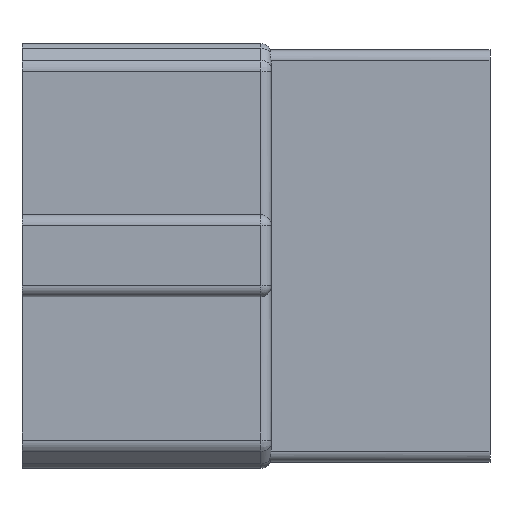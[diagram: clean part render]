
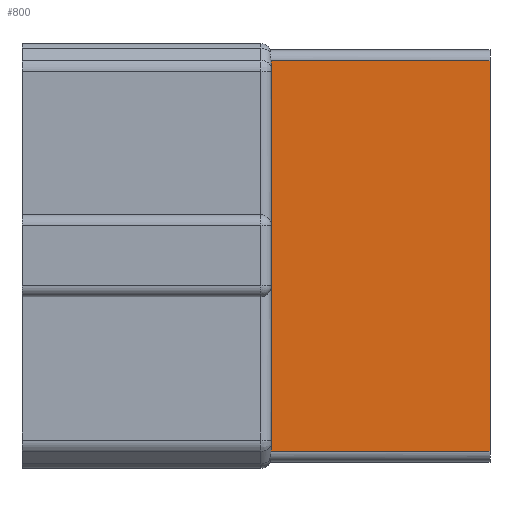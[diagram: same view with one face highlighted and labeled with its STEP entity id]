
A CAD part, top view. The second image highlights one B-rep face of the part: STEP entity #800.
In plain terms, the highlighted planar face has unit normal (0, 0, 1).
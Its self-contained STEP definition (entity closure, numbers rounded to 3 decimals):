
#57=CARTESIAN_POINT('Line Origine',(21.5,0.,6.9)) ;
#61=CARTESIAN_POINT('Vertex',(21.5,18.1,6.9)) ;
#63=CARTESIAN_POINT('Vertex',(21.5,-18.1,6.9)) ;
#748=CARTESIAN_POINT('Axis2P3D Location',(0.,-3.6,6.9)) ;
#754=CARTESIAN_POINT('Control Point',(1.2,-17.886,6.9)) ;
#755=CARTESIAN_POINT('Control Point',(1.2,-17.929,6.9)) ;
#756=CARTESIAN_POINT('Control Point',(1.199,-17.972,6.9)) ;
#757=CARTESIAN_POINT('Control Point',(1.197,-18.015,6.9)) ;
#758=CARTESIAN_POINT('Control Point',(1.193,-18.057,6.9)) ;
#759=CARTESIAN_POINT('Control Point',(1.188,-18.1,6.9)) ;
#760=CARTESIAN_POINT('Vertex',(1.188,-18.1,6.9)) ;
#762=CARTESIAN_POINT('Vertex',(1.2,-17.886,6.9)) ;
#765=CARTESIAN_POINT('Line Origine',(11.344,-18.1,6.9)) ;
#770=CARTESIAN_POINT('Line Origine',(11.344,18.1,6.9)) ;
#774=CARTESIAN_POINT('Vertex',(1.188,18.1,6.9)) ;
#778=CARTESIAN_POINT('Control Point',(1.2,17.886,6.9)) ;
#779=CARTESIAN_POINT('Control Point',(1.2,17.929,6.9)) ;
#780=CARTESIAN_POINT('Control Point',(1.199,17.972,6.9)) ;
#781=CARTESIAN_POINT('Control Point',(1.197,18.015,6.9)) ;
#782=CARTESIAN_POINT('Control Point',(1.193,18.057,6.9)) ;
#783=CARTESIAN_POINT('Control Point',(1.188,18.1,6.9)) ;
#784=CARTESIAN_POINT('Vertex',(1.2,17.886,6.9)) ;
#787=CARTESIAN_POINT('Line Origine',(1.2,0.,6.9)) ;
#58=DIRECTION('Vector Direction',(0.,1.,0.)) ;
#749=DIRECTION('Axis2P3D Direction',(-0.,0.,1.)) ;
#750=DIRECTION('Axis2P3D XDirection',(0.,-1.,0.)) ;
#766=DIRECTION('Vector Direction',(1.,0.,0.)) ;
#771=DIRECTION('Vector Direction',(1.,0.,0.)) ;
#788=DIRECTION('Vector Direction',(0.,-1.,0.)) ;
#751=AXIS2_PLACEMENT_3D('Plane Axis2P3D',#748,#749,#750) ;
#793=ORIENTED_EDGE('',*,*,#764,.F.) ;
#794=ORIENTED_EDGE('',*,*,#769,.T.) ;
#795=ORIENTED_EDGE('',*,*,#65,.F.) ;
#796=ORIENTED_EDGE('',*,*,#776,.F.) ;
#797=ORIENTED_EDGE('',*,*,#786,.T.) ;
#798=ORIENTED_EDGE('',*,*,#791,.F.) ;
#59=VECTOR('Line Direction',#58,1.) ;
#767=VECTOR('Line Direction',#766,1.) ;
#772=VECTOR('Line Direction',#771,1.) ;
#789=VECTOR('Line Direction',#788,1.) ;
#800=ADVANCED_FACE('BODY',(#799),#752,.T.) ;
#753=B_SPLINE_CURVE_WITH_KNOTS('',5,(#754,#755,#756,#757,#758,#759),.UNSPECIFIED.,.F.,.U.,(6,6),(0.,0.304),.UNSPECIFIED.) ;
#777=B_SPLINE_CURVE_WITH_KNOTS('',5,(#778,#779,#780,#781,#782,#783),.UNSPECIFIED.,.F.,.U.,(6,6),(0.,0.304),.UNSPECIFIED.) ;
#65=EDGE_CURVE('',#62,#64,#60,.F.) ;
#764=EDGE_CURVE('',#761,#763,#753,.F.) ;
#769=EDGE_CURVE('',#761,#64,#768,.T.) ;
#776=EDGE_CURVE('',#775,#62,#773,.T.) ;
#786=EDGE_CURVE('',#775,#785,#777,.F.) ;
#791=EDGE_CURVE('',#763,#785,#790,.F.) ;
#792=EDGE_LOOP('',(#793,#794,#795,#796,#797,#798)) ;
#799=FACE_OUTER_BOUND('',#792,.T.) ;
#60=LINE('Line',#57,#59) ;
#768=LINE('Line',#765,#767) ;
#773=LINE('Line',#770,#772) ;
#790=LINE('Line',#787,#789) ;
#752=PLANE('',#751) ;
#62=VERTEX_POINT('',#61) ;
#64=VERTEX_POINT('',#63) ;
#761=VERTEX_POINT('',#760) ;
#763=VERTEX_POINT('',#762) ;
#775=VERTEX_POINT('',#774) ;
#785=VERTEX_POINT('',#784) ;
